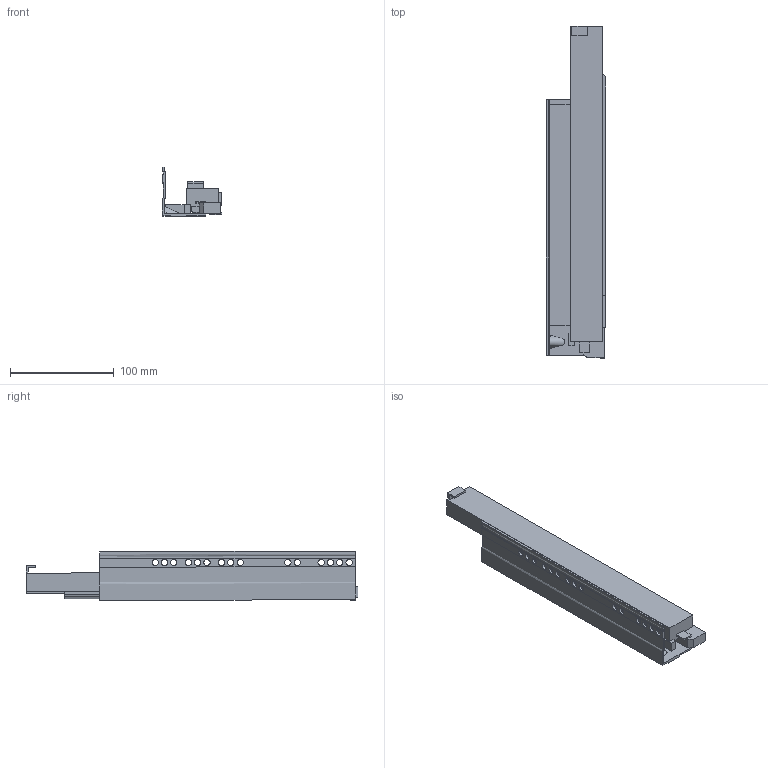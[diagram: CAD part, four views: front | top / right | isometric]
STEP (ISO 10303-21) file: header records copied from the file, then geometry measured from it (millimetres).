
FILE_DESCRIPTION (( 'STEP AP214' ), '1' );
FILE_NAME ('_IMOS_Dynapro_Softclose_D514_NL_320_LI.step', '2010-07-16T06:00:55', ( 'grass' ), ( '' ), 'SwSTEP 2.0', 'SolidWorks 2009', '' );
FILE_SCHEMA (( 'AUTOMOTIVE_DESIGN' ));
Length unit declared in the file: millimetre
Products named in the file (1): _IMOS_Dynapro_Softclose_D514_NL_320_LI
Bounding box: 57.08 x 320.07 x 47.86 mm (x, y, z)
Volume: 290606.5 mm3; surface area: 97422.6 mm2
Topology: 1 solids, 1 shells, 112 faces, 379 edges, 267 vertices
Faces by surface type: plane 76, cylinder 30, bspline 6
Entity records: 5037 total; most frequent: CARTESIAN_POINT 1584, ORIENTED_EDGE 754, DIRECTION 655, EDGE_CURVE 377, LINE 295, VECTOR 295, VERTEX_POINT 267, AXIS2_PLACEMENT_3D 180
